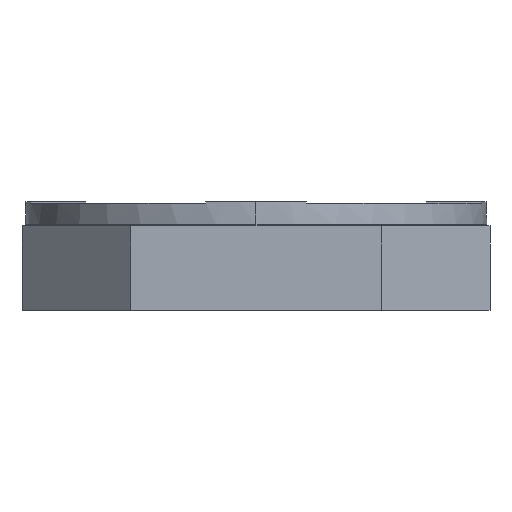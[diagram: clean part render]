
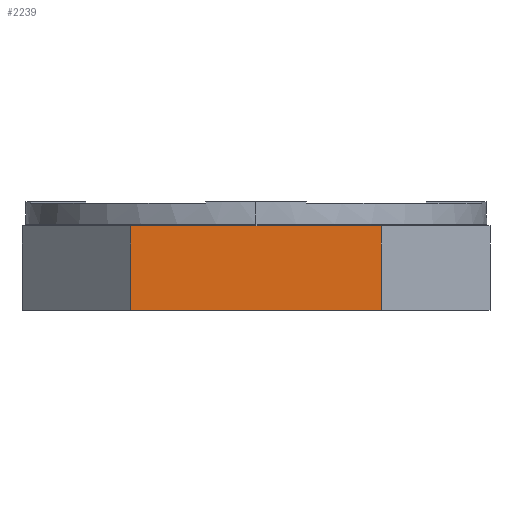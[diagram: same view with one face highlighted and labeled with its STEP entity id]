
A CAD part, left-side view. The second image highlights one B-rep face of the part: STEP entity #2239.
In plain terms, the highlighted planar face has unit normal (-1, 0, 0).
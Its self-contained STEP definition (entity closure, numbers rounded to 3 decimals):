
#87 = DIRECTION ( 'NONE',  ( 0., 0., 1. ) ) ;
#361 = CARTESIAN_POINT ( 'NONE',  ( -140., 75., 50.5 ) ) ;
#769 = CARTESIAN_POINT ( 'NONE',  ( -140., 75., 50.5 ) ) ;
#860 = VERTEX_POINT ( 'NONE', #4539 ) ;
#1159 = ORIENTED_EDGE ( 'NONE', *, *, #2873, .T. ) ;
#1318 = ORIENTED_EDGE ( 'NONE', *, *, #1498, .T. ) ;
#1338 = VECTOR ( 'NONE', #2379, 1000. ) ;
#1498 = EDGE_CURVE ( 'NONE', #6214, #7222, #6015, .T. ) ;
#2211 = FACE_OUTER_BOUND ( 'NONE', #2511, .T. ) ;
#2239 = ADVANCED_FACE ( 'NONE', ( #2211 ), #4537, .F. ) ;
#2261 = ORIENTED_EDGE ( 'NONE', *, *, #6670, .T. ) ;
#2379 = DIRECTION ( 'NONE',  ( 0., 0., -1. ) ) ;
#2382 = EDGE_CURVE ( 'NONE', #5539, #860, #5661, .T. ) ;
#2405 = DIRECTION ( 'NONE',  ( 0., -1., 0. ) ) ;
#2511 = EDGE_LOOP ( 'NONE', ( #1318, #2261, #2746, #1159 ) ) ;
#2746 = ORIENTED_EDGE ( 'NONE', *, *, #2382, .F. ) ;
#2873 = EDGE_CURVE ( 'NONE', #5539, #6214, #6368, .T. ) ;
#3068 = VECTOR ( 'NONE', #5813, 1000. ) ;
#3177 = AXIS2_PLACEMENT_3D ( 'NONE', #4589, #3997, #5713 ) ;
#3247 = VECTOR ( 'NONE', #2405, 1000. ) ;
#3950 = CARTESIAN_POINT ( 'NONE',  ( -140., -75., 50.5 ) ) ;
#3997 = DIRECTION ( 'NONE',  ( 1., 0., 0. ) ) ;
#4537 = PLANE ( 'NONE',  #3177 ) ;
#4539 = CARTESIAN_POINT ( 'NONE',  ( -140., -75., 50.5 ) ) ;
#4589 = CARTESIAN_POINT ( 'NONE',  ( -140., 140., 50.5 ) ) ;
#4891 = LINE ( 'NONE', #3950, #5681 ) ;
#5359 = CARTESIAN_POINT ( 'NONE',  ( -140., 75., 0. ) ) ;
#5539 = VERTEX_POINT ( 'NONE', #361 ) ;
#5661 = LINE ( 'NONE', #5836, #3068 ) ;
#5681 = VECTOR ( 'NONE', #87, 1000. ) ;
#5707 = CARTESIAN_POINT ( 'NONE',  ( -140., 140., 0. ) ) ;
#5713 = DIRECTION ( 'NONE',  ( 0., 1., 0. ) ) ;
#5813 = DIRECTION ( 'NONE',  ( 0., -1., 0. ) ) ;
#5836 = CARTESIAN_POINT ( 'NONE',  ( -140., 140., 50.5 ) ) ;
#6015 = LINE ( 'NONE', #5707, #3247 ) ;
#6214 = VERTEX_POINT ( 'NONE', #5359 ) ;
#6368 = LINE ( 'NONE', #769, #1338 ) ;
#6523 = CARTESIAN_POINT ( 'NONE',  ( -140., -75., 0. ) ) ;
#6670 = EDGE_CURVE ( 'NONE', #7222, #860, #4891, .T. ) ;
#7222 = VERTEX_POINT ( 'NONE', #6523 ) ;
